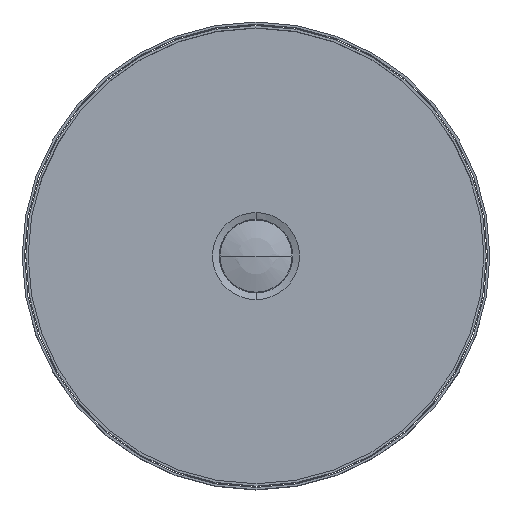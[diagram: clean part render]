
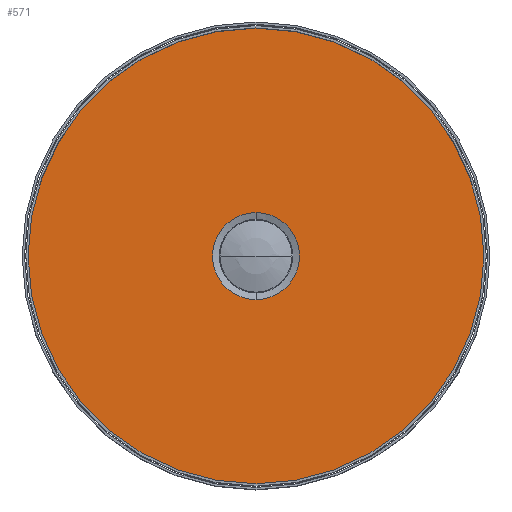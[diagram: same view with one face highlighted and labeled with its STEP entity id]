
A CAD part, top view. The second image highlights one B-rep face of the part: STEP entity #571.
In plain terms, the highlighted planar face has unit normal (0, 0, 1).
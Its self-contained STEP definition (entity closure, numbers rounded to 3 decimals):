
#312=CARTESIAN_POINT('',(0.,0.,-110.));
#313=DIRECTION('',(0.,0.,1.));
#314=DIRECTION('',(0.,-1.,0.));
#315=AXIS2_PLACEMENT_3D('',#312,#313,#314);
#322=CARTESIAN_POINT('',(0.,0.,-110.));
#323=DIRECTION('',(0.,0.,-1.));
#324=DIRECTION('',(0.,-1.,0.));
#325=AXIS2_PLACEMENT_3D('',#322,#323,#324);
#327=CARTESIAN_POINT('',(0.,0.,-110.));
#328=DIRECTION('',(0.,0.,-1.));
#329=DIRECTION('',(0.,1.,0.));
#330=AXIS2_PLACEMENT_3D('',#327,#328,#329);
#332=CARTESIAN_POINT('',(0.,0.,-110.));
#333=DIRECTION('',(0.,0.,1.));
#334=DIRECTION('',(0.,1.,0.));
#335=AXIS2_PLACEMENT_3D('',#332,#333,#334);
#401=CARTESIAN_POINT('',(0.,-37.211,-110.));
#402=VERTEX_POINT('',#401);
#403=CARTESIAN_POINT('',(0.,37.211,-110.));
#404=VERTEX_POINT('',#403);
#417=CARTESIAN_POINT('',(0.,-194.9,-110.));
#418=CARTESIAN_POINT('',(0.,194.9,-110.));
#419=VERTEX_POINT('',#417);
#420=VERTEX_POINT('',#418);
#555=CARTESIAN_POINT('',(-37.5,0.,-110.));
#556=DIRECTION('',(0.,0.,1.));
#557=DIRECTION('',(1.,0.,0.));
#558=AXIS2_PLACEMENT_3D('',#555,#556,#557);
#559=PLANE('',#558);
#560=ORIENTED_EDGE('',*,*,#545,.F.);
#562=ORIENTED_EDGE('',*,*,#561,.F.);
#563=EDGE_LOOP('',(#560,#562));
#564=FACE_OUTER_BOUND('',#563,.F.);
#566=ORIENTED_EDGE('',*,*,#565,.F.);
#568=ORIENTED_EDGE('',*,*,#567,.F.);
#569=EDGE_LOOP('',(#566,#568));
#570=FACE_BOUND('',#569,.F.);
#571=ADVANCED_FACE('',(#564,#570),#559,.T.);
#316=CIRCLE('',#315,194.9);
#326=CIRCLE('',#325,37.211);
#331=CIRCLE('',#330,37.211);
#336=CIRCLE('',#335,194.9);
#545=EDGE_CURVE('',#419,#420,#316,.T.);
#561=EDGE_CURVE('',#420,#419,#336,.T.);
#565=EDGE_CURVE('',#402,#404,#326,.T.);
#567=EDGE_CURVE('',#404,#402,#331,.T.);
